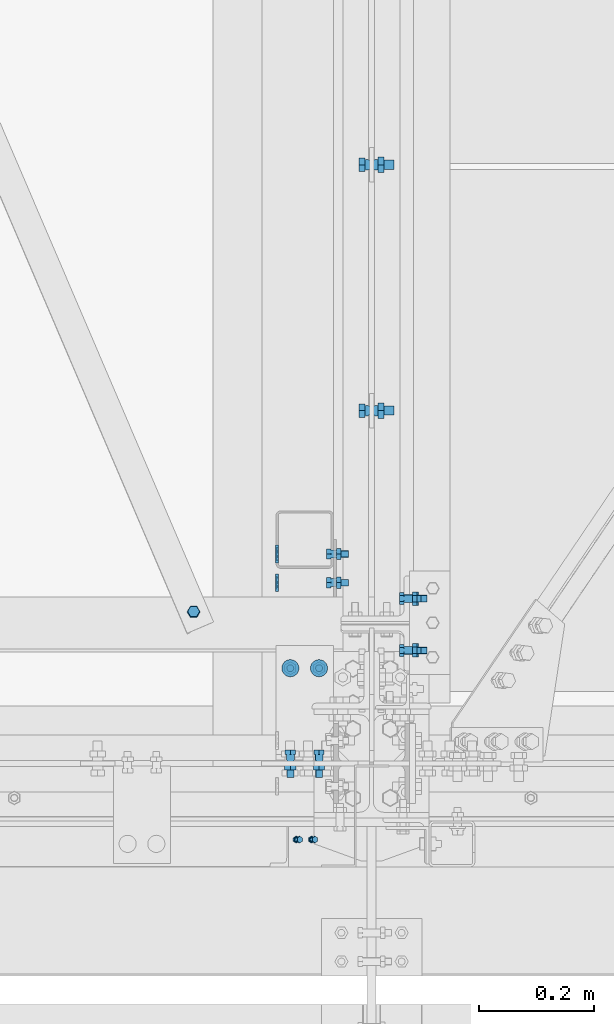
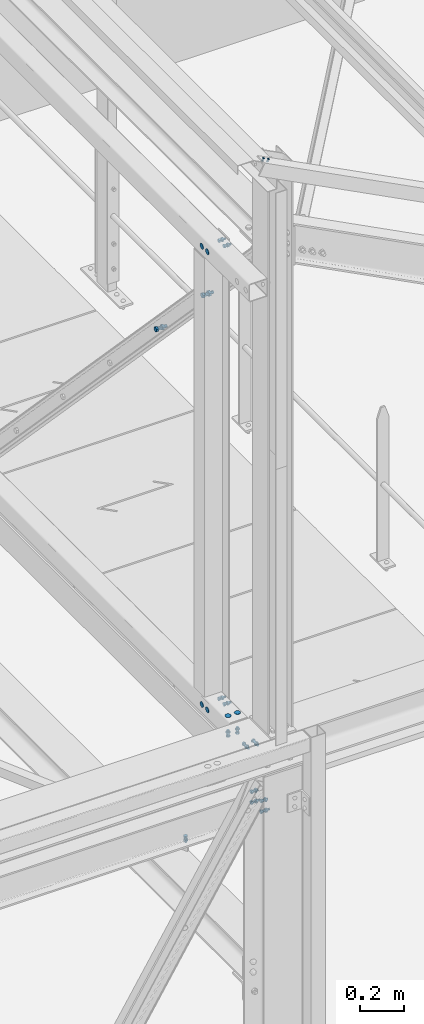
# One storey, part 260 of 362: 15 mechanical fasteners.
"""IFC2X3 building model written with IfcOpenShell, lengths in millimetres."""

import ifcopenshell
import ifcopenshell.guid

model = None  # the IFC model being written
_history = None  # IfcOwnerHistory: only IFC2X3 demands one
_inside = {}  # id of a spatial element -> (the spatial element, [elements in it])
_under = {}  # id of a project, library or spatial element -> (it, [spatial elements below it])
_declared = {}  # id of a project -> (the project, [libraries it declares])
_typed = {}  # id of a type object -> (the type object, [elements of that type])
_made_of = {}  # id of a material, layer set ... -> (it, [elements and type objects made of it])


def new_model(schema):
    """Start an empty IFC model of exactly this schema.

    Asked for "IFC4X3", IfcOpenShell would pick the latest addendum, in which some entities
    have other attributes; the version numbers below select the first issue.
    IFC2X3 requires an IfcOwnerHistory on every rooted entity: one is made here for all.
    """
    global model, _history
    if schema == "IFC4X3":
        model = ifcopenshell.file(schema_version=(4, 3, 0, 0))
    else:
        model = ifcopenshell.file(schema=schema)
    _inside.clear()
    _under.clear()
    _declared.clear()
    _typed.clear()
    _made_of.clear()
    _history = None
    if model.schema == "IFC2X3":
        org = make("IfcOrganization", Name="unknown")
        user = make(
            "IfcPersonAndOrganization",
            ThePerson=make("IfcPerson", FamilyName="unknown"),
            TheOrganization=org,
        )
        app = make(
            "IfcApplication",
            ApplicationDeveloper=org,
            Version="unknown",
            ApplicationFullName="unknown",
            ApplicationIdentifier="unknown",
        )
        _history = make(
            "IfcOwnerHistory",
            OwningUser=user,
            OwningApplication=app,
            ChangeAction="ADDED",
            CreationDate=0,
        )
    return model


def make(cls, **values):
    """One entity of the class cls with the attributes given. An attribute that is None is left unset."""
    return model.create_entity(
        cls, **{name: value for name, value in values.items() if value is not None}
    )


def rooted(cls, **values):
    """An entity with a GlobalId (a new one), such as an element, a storey or a relation."""
    return make(cls, GlobalId=ifcopenshell.guid.new(), OwnerHistory=_history, **values)


def si_unit(unit_type, name, prefix=None):
    """IfcSIUnit, for example si_unit("LENGTHUNIT", "METRE", prefix="MILLI")."""
    return make("IfcSIUnit", UnitType=unit_type, Prefix=prefix, Name=name)


def assignment(units):
    """IfcUnitAssignment: the units of a project."""
    return None if units is None else make("IfcUnitAssignment", Units=units)


def point(xyz):
    """IfcCartesianPoint."""
    return None if xyz is None else make("IfcCartesianPoint", Coordinates=xyz)


def direction(xyz):
    """IfcDirection."""
    return None if xyz is None else make("IfcDirection", DirectionRatios=xyz)


def frame(location, z_axis=None, x_axis=None):
    """IfcAxis2Placement3D, a coordinate frame: its origin and axes. An axis left out is left unset."""
    return make(
        "IfcAxis2Placement3D",
        Location=point(location),
        Axis=direction(z_axis),
        RefDirection=direction(x_axis),
    )


def frame_2d(location, x_axis=None):
    """IfcAxis2Placement2D, a coordinate frame in the plane: its origin and x axis."""
    return make(
        "IfcAxis2Placement2D", Location=point(location), RefDirection=direction(x_axis)
    )


def origin_with_axes():
    """The frame at (0, 0, 0) with the z axis (0, 0, 1) and the x axis (1, 0, 0) written out."""
    return frame((0.0, 0.0, 0.0), z_axis=(0.0, 0.0, 1.0), x_axis=(1.0, 0.0, 0.0))


def origin_2d_with_axis():
    """The frame at (0, 0) in the plane with the x axis (1, 0) written out."""
    return frame_2d((0.0, 0.0), x_axis=(1.0, 0.0))


def place(relative_to, where):
    """IfcLocalPlacement: puts the frame where relative to a parent placement (None: the world)."""
    return make(
        "IfcLocalPlacement", PlacementRelTo=relative_to, RelativePlacement=where
    )


def context(
    kind, dimensions, precision=None, world=None, true_north=None, identifier=None
):
    """IfcGeometricRepresentationContext, for example the 3D "Model" context."""
    return make(
        "IfcGeometricRepresentationContext",
        ContextIdentifier=identifier,
        ContextType=kind,
        CoordinateSpaceDimension=dimensions,
        Precision=precision,
        WorldCoordinateSystem=world,
        TrueNorth=true_north,
    )


def subcontext(parent, identifier, kind, view, scale=None):
    """IfcGeometricRepresentationSubContext, for example "Body" below "Model"."""
    return make(
        "IfcGeometricRepresentationSubContext",
        ContextIdentifier=identifier,
        ContextType=kind,
        ParentContext=parent,
        TargetScale=scale,
        TargetView=view,
    )


def project(units=None, contexts=None):
    """IfcProject with its units and contexts."""
    return rooted(
        "IfcProject",
        Name="project",
        RepresentationContexts=contexts,
        UnitsInContext=assignment(units),
    )


def spatial(cls, under=None, at=None, **own):
    """A site, building, storey or space (cls), placed at a placement, below another one or the project."""
    s = rooted(cls, ObjectPlacement=at, **own)
    if under is not None:
        _under.setdefault(under.id(), (under, []))[1].append(s)
    return s


def polyline(points):
    """IfcPolyline through the points."""
    return make("IfcPolyline", Points=[point(p) for p in points])


def profile(cls, at=None, kind="AREA", **sizes):
    """A parametric profile (cls). Its sizes go by their IFC names, for example OverallWidth=200.0."""
    return make(cls, ProfileType=kind, Position=at, **sizes)


def circle(**sizes):
    """IfcCircleProfileDef."""
    return profile("IfcCircleProfileDef", **sizes)


def outline(outer, holes=None, kind="AREA"):
    """IfcArbitraryClosedProfileDef: a profile drawn as a closed curve; with holes, ...WithVoids."""
    if holes is None:
        return make("IfcArbitraryClosedProfileDef", ProfileType=kind, OuterCurve=outer)
    return make(
        "IfcArbitraryProfileDefWithVoids",
        ProfileType=kind,
        OuterCurve=outer,
        InnerCurves=holes,
    )


def extrude(swept, where, along, depth):
    """IfcExtrudedAreaSolid: the profile swept, set in the frame where, extruded along a direction by depth."""
    return make(
        "IfcExtrudedAreaSolid",
        SweptArea=swept,
        Position=where,
        ExtrudedDirection=direction(along),
        Depth=depth,
    )


def shape(context_of_items, identifier, shape_type, items):
    """IfcShapeRepresentation: the items that make up one representation, for example the "Body"."""
    return make(
        "IfcShapeRepresentation",
        ContextOfItems=context_of_items,
        RepresentationIdentifier=identifier,
        RepresentationType=shape_type,
        Items=items,
    )


def source(mapping_origin, context_of_items, identifier, shape_type, items):
    """IfcRepresentationMap: a shape defined once, which mapped items show again and again."""
    return make(
        "IfcRepresentationMap",
        MappingOrigin=mapping_origin,
        MappedRepresentation=shape(context_of_items, identifier, shape_type, items),
    )


def transform(
    local_origin,
    x_axis=None,
    y_axis=None,
    z_axis=None,
    scale=None,
    scale2=None,
    scale3=None,
    uniform=True,
):
    """IfcCartesianTransformationOperator3D, or its non-uniform kind. x_axis, y_axis, z_axis: its Axis1, 2, 3."""
    if uniform:
        return make(
            "IfcCartesianTransformationOperator3D",
            Axis1=direction(x_axis),
            Axis2=direction(y_axis),
            LocalOrigin=point(local_origin),
            Scale=scale,
            Axis3=direction(z_axis),
        )
    return make(
        "IfcCartesianTransformationOperator3DnonUniform",
        Axis1=direction(x_axis),
        Axis2=direction(y_axis),
        LocalOrigin=point(local_origin),
        Scale=scale,
        Axis3=direction(z_axis),
        Scale2=scale2,
        Scale3=scale3,
    )


def mapped(mapping_source, mapping_target):
    """IfcMappedItem: shows the shape of a source again, moved by a transform."""
    return make(
        "IfcMappedItem", MappingSource=mapping_source, MappingTarget=mapping_target
    )


def material(Name=None, Category=None):
    """IfcMaterial."""
    return make("IfcMaterial", Name=Name, Category=Category)


def made_of(thing, what):
    """Note that an element or type object is made of a material, layer set ...; save() writes the relation."""
    if what is not None:
        _made_of.setdefault(what.id(), (what, []))[1].append(thing)
    return thing


def type_object(cls, material=None, **own):
    """A type object (cls), such as IfcWallType, which elements share."""
    return made_of(rooted(cls, **own), material)


def element(
    cls,
    number,
    at=None,
    inside=None,
    cuts=None,
    type_object=None,
    material=None,
    context=None,
    identifier="Body",
    shape_type=None,
    held_by="IfcProductDefinitionShape",
    body=None,
    shapes=None,
    **own,
):
    """One element of the class cls, such as IfcWall. Its Tag is "e" and its number.

    at: its placement. inside: the storey or other place that contains it. cuts: it is an
    opening in that element (IfcRelVoidsElement). A single representation is given by context,
    identifier, shape_type and body (its items); several are given by shapes. held_by: the class
    of the entity that holds the representations. save() writes the other relations.
    """
    e = rooted(cls, Tag="e%d" % number, ObjectPlacement=at, **own)
    if body is not None:
        shapes = [shape(context, identifier, shape_type, body)]
    if shapes is not None:
        e.Representation = make(held_by, Representations=shapes)
    if inside is not None:
        _inside.setdefault(inside.id(), (inside, []))[1].append(e)
    if cuts is not None:
        rooted(
            "IfcRelVoidsElement", RelatingBuildingElement=cuts, RelatedOpeningElement=e
        )
    if type_object is not None:
        _typed.setdefault(type_object.id(), (type_object, []))[1].append(e)
    return made_of(e, material)


def aggregate(whole, parts):
    """IfcRelAggregates: a whole, such as a stair, and the parts it consists of."""
    return rooted("IfcRelAggregates", RelatingObject=whole, RelatedObjects=parts)


def save(model, path):
    """Write the relations noted so far, then the file.

    IfcRelAggregates (storeys below a building ...), IfcRelContainedInSpatialStructure (elements
    in a storey), IfcRelDefinesByType, IfcRelAssociatesMaterial and IfcRelDeclares: one each for
    every whole, place, type object, material and project.
    """
    for whole, parts in _under.values():
        aggregate(whole, parts)
    for where, things in _inside.values():
        rooted(
            "IfcRelContainedInSpatialStructure",
            RelatedElements=things,
            RelatingStructure=where,
        )
    for kind, things in _typed.values():
        rooted("IfcRelDefinesByType", RelatedObjects=things, RelatingType=kind)
    for what, things in _made_of.values():
        rooted("IfcRelAssociatesMaterial", RelatedObjects=things, RelatingMaterial=what)
    for by, libraries in _declared.values():
        rooted("IfcRelDeclares", RelatingContext=by, RelatedDefinitions=libraries)
    model.write(path)


model = new_model("IFC2X3")

# Units and contexts
model_context = context("Model", 3, precision=1e-05, world=origin_with_axes())
body_context = subcontext(model_context, "Body", "Model", "MODEL_VIEW")
ifc_project = project(units=[si_unit("LENGTHUNIT", "METRE", prefix="MILLI"), si_unit("AREAUNIT", "SQUARE_METRE"), si_unit("VOLUMEUNIT", "CUBIC_METRE"), si_unit("MASSUNIT", "GRAM", prefix="KILO"), si_unit("TIMEUNIT", "SECOND"), si_unit("PLANEANGLEUNIT", "RADIAN"), si_unit("SOLIDANGLEUNIT", "STERADIAN"), si_unit("THERMODYNAMICTEMPERATUREUNIT", "DEGREE_CELSIUS"), si_unit("LUMINOUSINTENSITYUNIT", "LUMEN")], contexts=[model_context])

# Site, building, storey
site_placement = place(None, origin_with_axes())
site = spatial("IfcSite", under=ifc_project, at=site_placement, Name="Undefined", CompositionType="ELEMENT")
building_placement = place(site_placement, origin_with_axes())
building = spatial("IfcBuilding", under=site, at=building_placement, Name="Undefined", CompositionType="ELEMENT")
storey_placement = place(building_placement, origin_with_axes())
storey = spatial("IfcBuildingStorey", under=building, at=storey_placement, Name="Undefined", CompositionType="ELEMENT", Elevation=0.0)

# Mechanical fasteners
ifc_material_1 = material(Name="6.8")
mechanical_fastener_type = type_object("IfcMechanicalFastenerType", Name="Bolt assembly")
shared_shape_1 = source(origin_with_axes(), body_context, "Body", "SweptSolid", [
    extrude(circle(Radius=15.0, at=origin_2d_with_axis()), frame((0.0, 0.0, 0.0), z_axis=(0.0, 1.0, 0.0), x_axis=(1.0, 0.0, 0.0)), (0.0, 0.0, 1.0), 4.1),
])
for number, where, z_axis, x_axis, name in (
    (1, (23353.4999986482, 166.0, 8550.0), (1.0, 0.0, 0.0), (0.0, -1.0, 0.0), "Bolt assembly"),
    (2, (23303.5000012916, 339.9999987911, 11070.0), (0.0, -1.0, 0.0), (0.0, 0.0, -1.0), "Bolt assembly"),
):
    element("IfcMechanicalFastener", number, at=place(storey_placement, frame(where, z_axis=z_axis, x_axis=x_axis)), inside=storey, type_object=mechanical_fastener_type, material=ifc_material_1, Name=name, NominalDiameter=30.0, NominalLength=4.0, context=body_context, shape_type="MappedRepresentation", body=[
        mapped(shared_shape_1, transform((0.0, 0.0, -25.0))),
        mapped(shared_shape_1, transform((0.0, 0.0, 25.0))),
    ])
ifc_material_2 = material(Name="8.8-SB-ZINGUE")
shared_shape_2 = source(origin_with_axes(), body_context, "Body", "SweptSolid", [
    extrude(circle(Radius=9.0, at=origin_2d_with_axis()), frame((0.0, -10.9000000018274, 0.0), z_axis=(0.0, 1.0, 0.0), x_axis=(1.0, 0.0, 0.0)), (0.0, 0.0, 1.0), 6.0),
    extrude(circle(Radius=9.0, at=origin_2d_with_axis()), frame((0.0, 4.9000000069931, 0.0), z_axis=(0.0, 1.0, 0.0), x_axis=(1.0, 0.0, 0.0)), (0.0, 0.0, 1.0), 6.1),
    extrude(circle(Radius=9.0, at=origin_2d_with_axis()), frame((0.0, -3.99999923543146, 0.0), z_axis=(0.0, 1.0, 0.0), x_axis=(1.0, 0.0, 0.0)), (0.0, 0.0, 1.0), 8.0),
    extrude(outline(polyline([(13.85640646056, 0.0), (6.92820323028, 12.0000000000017), (-6.92820323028, 12.0000000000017), (-13.85640646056, 0.0), (-6.92820323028, -12.0000000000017), (6.92820323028, -12.0000000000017), (13.85640646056, 0.0)])), frame((0.0, -21.5600000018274, 0.0), z_axis=(0.0, 1.0, 0.0), x_axis=(1.0, 0.0, 0.0)), (0.0, 0.0, 1.0), 10.56),
    extrude(circle(Radius=8.0, at=origin_2d_with_axis()), frame((0.0, -11.0000000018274, 0.0), z_axis=(0.0, 1.0, 0.0), x_axis=(1.0, 0.0, 0.0)), (0.0, 0.0, 1.0), 50.0),
    extrude(outline(polyline([(15.3344231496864, 0.0), (7.6672115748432, 13.2800000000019), (-7.6672115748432, 13.2800000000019), (-15.3344231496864, 0.0), (-7.6672115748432, -13.2800000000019), (7.6672115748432, -13.2800000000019), (15.3344231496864, 0.0)])), frame((0.0, 11.0000000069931, 0.0), z_axis=(0.0, 1.0, 0.0), x_axis=(1.0, 0.0, 0.0)), (0.0, 0.0, 1.0), 10.56),
])
for number, where, z_axis, x_axis, name in (
    (3, (23470.0, 614.733331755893, 10591.1819389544), (0.0, 1.0, 0.0), (0.0, 0.0, 1.0), "Bolt assembly"),
    (4, (23470.0, 1043.15647512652, 10141.7879594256), (0.0, 1.0, 0.0), (0.0, 0.0, 1.0), "Bolt assembly"),
):
    element("IfcMechanicalFastener", number, at=place(storey_placement, frame(where, z_axis=z_axis, x_axis=x_axis)), inside=storey, type_object=mechanical_fastener_type, material=ifc_material_2, Name=name, NominalDiameter=16.0, NominalLength=50.0, context=body_context, shape_type="MappedRepresentation", body=[
        mapped(shared_shape_2, transform((0.0, 0.0, 0.0))),
    ])
shared_shape_3 = source(origin_with_axes(), body_context, "Body", "SweptSolid", [
    extrude(circle(Radius=7.0, at=origin_2d_with_axis()), frame((0.0, -27.893222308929, 0.0), z_axis=(0.0, 1.0, 0.0), x_axis=(1.0, 0.0, 0.0)), (0.0, 0.0, 1.0), 8.0),
    extrude(circle(Radius=7.0, at=origin_2d_with_axis()), frame((0.0, -20.0965527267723, 0.0), z_axis=(0.0, 1.0, 0.0), x_axis=(1.0, 0.0, 0.0)), (0.0, 0.0, 1.0), 5.1),
    extrude(outline(polyline([(10.39230484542, 0.0), (5.19615242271, 9.00000000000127), (-5.19615242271, 9.00000000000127), (-10.39230484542, 0.0), (-5.19615242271, -9.00000000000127), (5.19615242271, -9.00000000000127), (10.39230484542, 0.0)])), frame((0.0, -35.913222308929, 0.0), z_axis=(0.0, 1.0, 0.0), x_axis=(1.0, 0.0, 0.0)), (0.0, 0.0, 1.0), 7.92),
    extrude(circle(Radius=6.0, at=origin_2d_with_axis()), frame((0.0, -27.993222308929, 0.0), z_axis=(0.0, 1.0, 0.0), x_axis=(1.0, 0.0, 0.0)), (0.0, 0.0, 1.0), 30.0),
    extrude(outline(polyline([(11.5008173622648, 0.0), (5.7504086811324, 9.96000000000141), (-5.7504086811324, 9.96000000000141), (-11.5008173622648, 0.0), (-5.7504086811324, -9.96000000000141), (5.7504086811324, -9.96000000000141), (11.5008173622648, 0.0)])), frame((0.0, -14.9965527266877, 0.0), z_axis=(0.0, 1.0, 0.0), x_axis=(1.0, 0.0, 0.0)), (0.0, 0.0, 1.0), 7.92),
])
mechanical_fastener_1_placement = place(storey_placement, frame((23160.0000126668, 263.705633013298, 7841.62076103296), z_axis=(0.0, -0.999506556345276, 0.031410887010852), x_axis=(-1.0, 0.0, 0.0)))
element("IfcMechanicalFastener", 5, at=mechanical_fastener_1_placement, inside=storey, type_object=mechanical_fastener_type, material=ifc_material_2, Name="Bolt assembly", NominalDiameter=12.0, NominalLength=30.0, context=body_context, shape_type="MappedRepresentation", body=[
    mapped(shared_shape_3, transform((0.0, 0.0, 0.0))),
])
shared_shape_4 = source(origin_with_axes(), body_context, "Body", "SweptSolid", [
    extrude(circle(Radius=4.0, at=origin_2d_with_axis()), frame((0.0, 0.0, 0.0), z_axis=(0.0, 1.0, 0.0), x_axis=(1.0, 0.0, 0.0)), (0.0, 0.0, 1.0), 7.1),
    extrude(outline(polyline([(5.7735026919, 0.0), (2.88675134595, 5.00000000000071), (-2.88675134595, 5.00000000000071), (-5.7735026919, 0.0), (-2.88675134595, -5.00000000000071), (2.88675134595, -5.00000000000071), (5.7735026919, 0.0)])), frame((0.0, -4.00006625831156, 0.0), z_axis=(0.0, 1.0, 0.0), x_axis=(1.0, 0.0, 0.0)), (0.0, 0.0, 1.0), 4.0),
    extrude(circle(Radius=3.0, at=origin_2d_with_axis()), frame((0.0, 0.0, 0.0), z_axis=(0.0, 1.0, 0.0), x_axis=(1.0, 0.0, 0.0)), (0.0, 0.0, 1.0), 16.0),
    extrude(outline(polyline([(5.7735026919, 0.0), (2.88675134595, 5.00000000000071), (-2.88675134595, 5.00000000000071), (-5.7735026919, 0.0), (-2.88675134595, -5.00000000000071), (2.88675134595, -5.00000000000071), (5.7735026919, 0.0)])), frame((0.0, 7.0, 0.0), z_axis=(0.0, 1.0, 0.0), x_axis=(1.0, 0.0, 0.0)), (0.0, 0.0, 1.0), 5.2),
])
mechanical_fastener_2_placement = place(storey_placement, frame((23356.5928711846, -132.499920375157, 11843.6010765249), z_axis=(-0.887869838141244, 0.0, 0.460094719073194), x_axis=(0.0, 1.0, 0.0)))
element("IfcMechanicalFastener", 6, at=mechanical_fastener_2_placement, inside=storey, type_object=mechanical_fastener_type, material=ifc_material_1, Name="Bolt assembly", NominalDiameter=6.0, NominalLength=16.0, context=body_context, shape_type="MappedRepresentation", body=[
    mapped(shared_shape_4, transform((0.0, 0.0, -15.0))),
    mapped(shared_shape_4, transform((0.0, -3.63797880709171e-12, 15.0000000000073))),
])
shared_shape_5 = source(origin_with_axes(), body_context, "Body", "SweptSolid", [
    extrude(circle(Radius=7.0, at=origin_2d_with_axis()), frame((0.0, 2.65, 0.0), z_axis=(0.0, 1.0, 0.0), x_axis=(1.0, 0.0, 0.0)), (0.0, 0.0, 1.0), 6.6),
    extrude(circle(Radius=7.0, at=origin_2d_with_axis()), frame((0.0, -9.9, 0.0), z_axis=(0.0, 1.0, 0.0), x_axis=(1.0, 0.0, 0.0)), (0.0, 0.0, 1.0), 10.0),
    extrude(outline(polyline([(10.39230484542, 0.0), (5.19615242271, 9.00000000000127), (-5.19615242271, 9.00000000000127), (-10.39230484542, 0.0), (-5.19615242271, -9.00000000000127), (5.19615242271, -9.00000000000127), (10.39230484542, 0.0)])), frame((0.0, -17.92, 0.0), z_axis=(0.0, 1.0, 0.0), x_axis=(1.0, 0.0, 0.0)), (0.0, 0.0, 1.0), 7.92),
    extrude(circle(Radius=6.0, at=origin_2d_with_axis()), frame((0.0, -10.0000010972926, 0.0), z_axis=(0.0, 1.0, 0.0), x_axis=(1.0, 0.0, 0.0)), (0.0, 0.0, 1.0), 40.0),
    extrude(outline(polyline([(11.5008173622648, 0.0), (5.7504086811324, 9.96000000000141), (-5.7504086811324, 9.96000000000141), (-11.5008173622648, 0.0), (-5.7504086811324, -9.96000000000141), (5.7504086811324, -9.96000000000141), (11.5008173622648, 0.0)])), frame((0.0, 9.25, 0.0), z_axis=(0.0, 1.0, 0.0), x_axis=(1.0, 0.0, 0.0)), (0.0, 0.0, 1.0), 7.92),
])
mechanical_fastener_3_placement = place(storey_placement, frame((23353.4999986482, 6.0, 8480.0), z_axis=(-1.0, 0.0, 0.0), x_axis=(0.0, 0.0, -1.0)))
element("IfcMechanicalFastener", 7, at=mechanical_fastener_3_placement, inside=storey, type_object=mechanical_fastener_type, material=ifc_material_2, Name="Bolt assembly", NominalDiameter=12.0, NominalLength=40.0, context=body_context, shape_type="MappedRepresentation", body=[
    mapped(shared_shape_5, transform((0.0, 0.0, 25.0))),
    mapped(shared_shape_5, transform((0.0, 0.0, -25.0))),
])
shared_shape_6 = source(origin_with_axes(), body_context, "Body", "SweptSolid", [
    extrude(circle(Radius=7.0, at=origin_2d_with_axis()), frame((0.0, 9.9, 0.0), z_axis=(0.0, 1.0, 0.0), x_axis=(1.0, 0.0, 0.0)), (0.0, 0.0, 1.0), 4.1),
    extrude(circle(Radius=7.0, at=origin_2d_with_axis()), frame((0.0, 0.1, 0.0), z_axis=(0.0, 1.0, 0.0), x_axis=(1.0, 0.0, 0.0)), (0.0, 0.0, 1.0), 10.0),
    extrude(outline(polyline([(10.39230484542, 0.0), (5.19615242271, 9.00000000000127), (-5.19615242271, 9.00000000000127), (-10.39230484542, 0.0), (-5.19615242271, -9.00000000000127), (5.19615242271, -9.00000000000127), (10.39230484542, 0.0)])), frame((0.0, -7.91999999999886, 0.0), z_axis=(0.0, 1.0, 0.0), x_axis=(1.0, 0.0, 0.0)), (0.0, 0.0, 1.0), 7.92),
    extrude(circle(Radius=6.0, at=origin_2d_with_axis()), frame((0.0, 0.0, 0.0), z_axis=(0.0, 1.0, 0.0), x_axis=(1.0, 0.0, 0.0)), (0.0, 0.0, 1.0), 30.0),
    extrude(outline(polyline([(11.5008173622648, 0.0), (5.7504086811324, 9.96000000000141), (-5.7504086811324, 9.96000000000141), (-11.5008173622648, 0.0), (-5.7504086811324, -9.96000000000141), (5.7504086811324, -9.96000000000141), (11.5008173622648, 0.0)])), frame((0.0, 13.9999928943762, 0.0), z_axis=(0.0, 1.0, 0.0), x_axis=(1.0, 0.0, 0.0)), (0.0, 0.0, 1.0), 7.92),
])
mechanical_fastener_4_placement = place(storey_placement, frame((23353.4999986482, 166.0, 8440.0), z_axis=(-1.0, 0.0, 0.0), x_axis=(0.0, -1.0, 0.0)))
element("IfcMechanicalFastener", 8, at=mechanical_fastener_4_placement, inside=storey, type_object=mechanical_fastener_type, material=ifc_material_2, Name="Bolt assembly", NominalDiameter=12.0, NominalLength=30.0, context=body_context, shape_type="MappedRepresentation", body=[
    mapped(shared_shape_6, transform((0.0, 0.0, 25.0))),
    mapped(shared_shape_6, transform((0.0, 0.0, -25.0))),
])
shared_shape_7 = source(origin_with_axes(), body_context, "Body", "SweptSolid", [
    extrude(circle(Radius=15.0, at=origin_2d_with_axis()), frame((0.0, -0.000130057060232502, 0.0), z_axis=(0.0, 1.0, 0.0), x_axis=(1.0, 0.0, 0.0)), (0.0, 0.0, 1.0), 4.1),
])
mechanical_fastener_5_placement = place(storey_placement, frame((23303.5001162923, 339.9999987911, 8500.0), z_axis=(0.0, 1.0, 0.0), x_axis=(0.0, 0.0, 1.0)))
element("IfcMechanicalFastener", 9, at=mechanical_fastener_5_placement, inside=storey, type_object=mechanical_fastener_type, material=ifc_material_1, Name="Bolt assembly", NominalDiameter=30.0, NominalLength=4.0, context=body_context, shape_type="MappedRepresentation", body=[
    mapped(shared_shape_7, transform((0.0, 0.0, -25.0))),
    mapped(shared_shape_7, transform((0.0, 0.0, 25.0))),
])
shared_shape_8 = source(origin_with_axes(), body_context, "Body", "SweptSolid", [
    extrude(circle(Radius=7.0, at=origin_2d_with_axis()), frame((0.0, -3.90012822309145, 0.0), z_axis=(0.0, 1.0, 0.0), x_axis=(1.0, 0.0, 0.0)), (0.0, 0.0, 1.0), 4.0),
    extrude(circle(Radius=7.0, at=origin_2d_with_axis()), frame((0.0, -0.100011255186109, 0.0), z_axis=(0.0, 1.0, 0.0), x_axis=(1.0, 0.0, 0.0)), (0.0, 0.0, 1.0), 5.1),
    extrude(outline(polyline([(10.39230484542, 0.0), (5.19615242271, 9.00000000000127), (-5.19615242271, 9.00000000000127), (-10.39230484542, 0.0), (-5.19615242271, -9.00000000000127), (5.19615242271, -9.00000000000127), (10.39230484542, 0.0)])), frame((0.0, -11.9201282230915, 0.0), z_axis=(0.0, 1.0, 0.0), x_axis=(1.0, 0.0, 0.0)), (0.0, 0.0, 1.0), 7.92),
    extrude(circle(Radius=6.0, at=origin_2d_with_axis()), frame((0.0, -4.00012822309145, 0.0), z_axis=(0.0, 1.0, 0.0), x_axis=(1.0, 0.0, 0.0)), (0.0, 0.0, 1.0), 30.0),
    extrude(outline(polyline([(11.5008173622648, 0.0), (5.7504086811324, 9.96000000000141), (-5.7504086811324, 9.96000000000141), (-11.5008173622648, 0.0), (-5.7504086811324, -9.96000000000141), (5.7504086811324, -9.96000000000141), (11.5008173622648, 0.0)])), frame((0.0, 5.0, 0.0), z_axis=(0.0, 1.0, 0.0), x_axis=(1.0, 0.0, 0.0)), (0.0, 0.0, 1.0), 7.92),
])
mechanical_fastener_6_placement = place(storey_placement, frame((23403.5001162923, 339.9999987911, 8500.0), z_axis=(0.0, 1.0, 0.0), x_axis=(0.0, 0.0, 1.0)))
element("IfcMechanicalFastener", 10, at=mechanical_fastener_6_placement, inside=storey, type_object=mechanical_fastener_type, material=ifc_material_2, Name="Bolt assembly", NominalDiameter=12.0, NominalLength=30.0, context=body_context, shape_type="MappedRepresentation", body=[
    mapped(shared_shape_8, transform((0.0, 0.0, -25.0))),
    mapped(shared_shape_8, transform((0.0, 0.0, 25.0))),
])
shared_shape_9 = source(origin_with_axes(), body_context, "Body", "SweptSolid", [
    extrude(circle(Radius=7.0, at=origin_2d_with_axis()), frame((0.0, -3.89999843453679, 0.0), z_axis=(0.0, 1.0, 0.0), x_axis=(1.0, 0.0, 0.0)), (0.0, 0.0, 1.0), 4.0),
    extrude(circle(Radius=7.0, at=origin_2d_with_axis()), frame((0.0, -0.0998569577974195, 0.0), z_axis=(0.0, 1.0, 0.0), x_axis=(1.0, 0.0, 0.0)), (0.0, 0.0, 1.0), 5.1),
    extrude(outline(polyline([(10.39230484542, 0.0), (5.19615242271, 9.00000000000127), (-5.19615242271, 9.00000000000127), (-10.39230484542, 0.0), (-5.19615242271, -9.00000000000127), (5.19615242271, -9.00000000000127), (10.39230484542, 0.0)])), frame((0.0, -11.9199984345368, 0.0), z_axis=(0.0, 1.0, 0.0), x_axis=(1.0, 0.0, 0.0)), (0.0, 0.0, 1.0), 7.92),
    extrude(circle(Radius=6.0, at=origin_2d_with_axis()), frame((0.0, -3.99999923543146, 0.0), z_axis=(0.0, 1.0, 0.0), x_axis=(1.0, 0.0, 0.0)), (0.0, 0.0, 1.0), 30.0),
    extrude(outline(polyline([(11.5008173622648, 0.0), (5.7504086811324, 9.96000000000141), (-5.7504086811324, 9.96000000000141), (-11.5008173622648, 0.0), (-5.7504086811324, -9.96000000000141), (5.7504086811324, -9.96000000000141), (11.5008173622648, 0.0)])), frame((0.0, 5.00010437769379, 0.0), z_axis=(0.0, 1.0, 0.0), x_axis=(1.0, 0.0, 0.0)), (0.0, 0.0, 1.0), 7.92),
])
mechanical_fastener_7_placement = place(storey_placement, frame((23403.5000012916, 339.9999987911, 11070.0), z_axis=(0.0, -1.0, 0.0), x_axis=(0.0, 0.0, -1.0)))
element("IfcMechanicalFastener", 11, at=mechanical_fastener_7_placement, inside=storey, type_object=mechanical_fastener_type, material=ifc_material_2, Name="Bolt assembly", NominalDiameter=12.0, NominalLength=30.0, context=body_context, shape_type="MappedRepresentation", body=[
    mapped(shared_shape_9, transform((0.0, 0.0, -25.0))),
    mapped(shared_shape_9, transform((0.0, 0.0, 25.0))),
])
shared_shape_10 = source(origin_with_axes(), body_context, "Body", "SweptSolid", [
    extrude(circle(Radius=7.0, at=origin_2d_with_axis()), frame((0.0, -0.100011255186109, 0.0), z_axis=(0.0, 1.0, 0.0), x_axis=(1.0, 0.0, 0.0)), (0.0, 0.0, 1.0), 5.1),
    extrude(circle(Radius=7.0, at=origin_2d_with_axis()), frame((0.0, -9.9, 0.0), z_axis=(0.0, 1.0, 0.0), x_axis=(1.0, 0.0, 0.0)), (0.0, 0.0, 1.0), 10.0),
    extrude(outline(polyline([(10.39230484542, 0.0), (5.19615242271, 9.00000000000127), (-5.19615242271, 9.00000000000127), (-10.39230484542, 0.0), (-5.19615242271, -9.00000000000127), (5.19615242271, -9.00000000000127), (10.39230484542, 0.0)])), frame((0.0, -17.92, 0.0), z_axis=(0.0, 1.0, 0.0), x_axis=(1.0, 0.0, 0.0)), (0.0, 0.0, 1.0), 7.92),
    extrude(circle(Radius=6.0, at=origin_2d_with_axis()), frame((0.0, -10.0000010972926, 0.0), z_axis=(0.0, 1.0, 0.0), x_axis=(1.0, 0.0, 0.0)), (0.0, 0.0, 1.0), 30.0),
    extrude(outline(polyline([(11.5008173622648, 0.0), (5.7504086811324, 9.96000000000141), (-5.7504086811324, 9.96000000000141), (-11.5008173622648, 0.0), (-5.7504086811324, -9.96000000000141), (5.7504086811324, -9.96000000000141), (11.5008173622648, 0.0)])), frame((0.0, 5.0, 0.0), z_axis=(0.0, 1.0, 0.0), x_axis=(1.0, 0.0, 0.0)), (0.0, 0.0, 1.0), 7.92),
])
for number, where, z_axis, x_axis, name in (
    (12, (23536.5000581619, 287.17308591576, 7980.94559527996), (0.0, 0.0, -1.0), (0.0, 1.0, 0.0), "Bolt assembly"),
    (13, (23536.5000581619, 197.173085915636, 7983.77400058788), (0.0, 0.0, 1.0), (0.0, -1.0, 0.0), "Bolt assembly"),
):
    element("IfcMechanicalFastener", number, at=place(storey_placement, frame(where, z_axis=z_axis, x_axis=x_axis)), inside=storey, type_object=mechanical_fastener_type, material=ifc_material_2, Name=name, NominalDiameter=12.0, NominalLength=30.0, context=body_context, shape_type="MappedRepresentation", body=[
        mapped(shared_shape_10, transform((0.0, 0.0, 0.0))),
    ])
shared_shape_11 = source(origin_with_axes(), body_context, "Body", "SweptSolid", [
    extrude(circle(Radius=7.0, at=origin_2d_with_axis()), frame((0.0, -0.100011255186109, 0.0), z_axis=(0.0, 1.0, 0.0), x_axis=(1.0, 0.0, 0.0)), (0.0, 0.0, 1.0), 7.1),
    extrude(circle(Radius=7.0, at=origin_2d_with_axis()), frame((0.0, -9.9, 0.0), z_axis=(0.0, 1.0, 0.0), x_axis=(1.0, 0.0, 0.0)), (0.0, 0.0, 1.0), 10.0),
    extrude(outline(polyline([(10.39230484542, 0.0), (5.19615242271, 9.00000000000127), (-5.19615242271, 9.00000000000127), (-10.39230484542, 0.0), (-5.19615242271, -9.00000000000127), (5.19615242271, -9.00000000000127), (10.39230484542, 0.0)])), frame((0.0, -17.92, 0.0), z_axis=(0.0, 1.0, 0.0), x_axis=(1.0, 0.0, 0.0)), (0.0, 0.0, 1.0), 7.92),
    extrude(circle(Radius=6.0, at=origin_2d_with_axis()), frame((0.0, -10.0000010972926, 0.0), z_axis=(0.0, 1.0, 0.0), x_axis=(1.0, 0.0, 0.0)), (0.0, 0.0, 1.0), 40.0),
    extrude(outline(polyline([(11.5008173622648, 0.0), (5.7504086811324, 9.96000000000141), (-5.7504086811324, 9.96000000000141), (-11.5008173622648, 0.0), (-5.7504086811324, -9.96000000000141), (5.7504086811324, -9.96000000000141), (11.5008173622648, 0.0)])), frame((0.0, 7.0, 0.0), z_axis=(0.0, 1.0, 0.0), x_axis=(1.0, 0.0, 0.0)), (0.0, 0.0, 1.0), 7.92),
])
for number, where, z_axis, x_axis, name in (
    (14, (23536.5000581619, 287.173085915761, 7920.91597341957), (0.0, 0.0, -1.0), (0.0, 1.0, 0.0), "Bolt assembly"),
    (15, (23536.5000581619, 197.173085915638, 7923.74437872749), (0.0, 0.0, 1.0), (0.0, -1.0, 0.0), "Bolt assembly"),
):
    element("IfcMechanicalFastener", number, at=place(storey_placement, frame(where, z_axis=z_axis, x_axis=x_axis)), inside=storey, type_object=mechanical_fastener_type, material=ifc_material_2, Name=name, NominalDiameter=12.0, NominalLength=40.0, context=body_context, shape_type="MappedRepresentation", body=[
        mapped(shared_shape_11, transform((0.0, 0.0, 0.0))),
    ])

save(model, "model.ifc")
